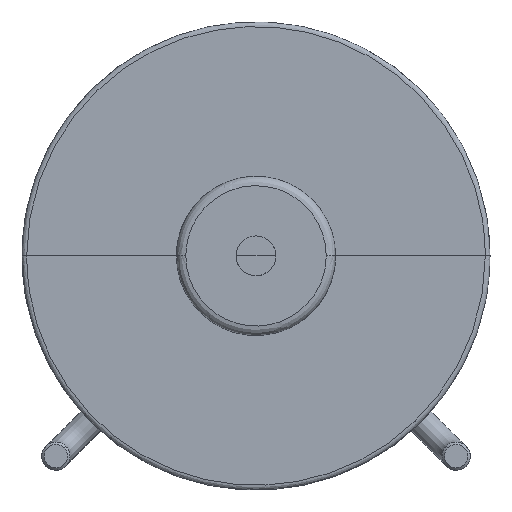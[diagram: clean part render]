
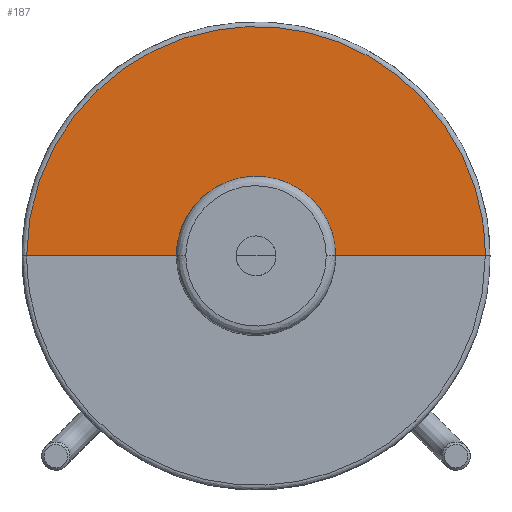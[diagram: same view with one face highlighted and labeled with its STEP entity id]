
A CAD part, top view. The second image highlights one B-rep face of the part: STEP entity #187.
In plain terms, the highlighted free-form (B-spline) face has degree [1, 2] with [2, 5] control points.
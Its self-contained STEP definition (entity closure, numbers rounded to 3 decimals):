
#187=ADVANCED_FACE($,(#347),#1914,.T.);
#347=FACE_OUTER_BOUND($,#517,.T.);
#517=EDGE_LOOP($,(#907,#908,#909,#910));
#907=ORIENTED_EDGE($,*,*,#1446,.F.);
#908=ORIENTED_EDGE($,*,*,#1447,.T.);
#909=ORIENTED_EDGE($,*,*,#1478,.F.);
#910=ORIENTED_EDGE($,*,*,#1476,.F.);
#1446=EDGE_CURVE($,#1728,#1743,#7308,.T.);
#1447=EDGE_CURVE($,#1728,#1735,#2070,.T.);
#1476=EDGE_CURVE($,#1743,#1744,#2084,.T.);
#1478=EDGE_CURVE($,#1744,#1735,#2085,.T.);
#1728=VERTEX_POINT($,#4604);
#1735=VERTEX_POINT($,#4611);
#1743=VERTEX_POINT($,#4619);
#1744=VERTEX_POINT($,#4620);
#1914=(
BOUNDED_SURFACE()
B_SPLINE_SURFACE(1,2,((#4167,#4168,#4169,#4170,#4171),(#4172,#4173,#4174,
#4175,#4176)),.UNSPECIFIED.,.F.,.F.,.F.)
B_SPLINE_SURFACE_WITH_KNOTS((2,2),(3,2,3),(0.,32.5),(0.,1.571,
3.142),.UNSPECIFIED.)
GEOMETRIC_REPRESENTATION_ITEM()
RATIONAL_B_SPLINE_SURFACE(((1.,0.707,1.,0.707,1.),
(1.,0.707,1.,0.707,1.)))
REPRESENTATION_ITEM($)
SURFACE()
);
#2070=B_SPLINE_CURVE_WITH_KNOTS($,1,(#3893,#3894),.UNSPECIFIED.,.F.,.F.,
(2,2),(0.,32.5),.UNSPECIFIED.);
#2084=B_SPLINE_CURVE_WITH_KNOTS($,1,(#4026,#4027),.UNSPECIFIED.,.F.,.F.,
(2,2),(0.,32.5),.UNSPECIFIED.);
#2085=B_SPLINE_CURVE_WITH_KNOTS($,3,(#4033,#4034,#4035,#4036,#4037,#4038,
#4039,#4040,#4041,#4042,#4043),.UNSPECIFIED.,.F.,.F.,(4,1,1,1,1,1,1,1,4),
(51.836,58.316,64.795,71.275,77.754,
84.234,90.713,97.193,103.672),.UNSPECIFIED.);
#3888=CARTESIAN_POINT($,(-138.894,-68.368,32.));
#3889=CARTESIAN_POINT($,(-138.894,-19.368,32.));
#3890=CARTESIAN_POINT($,(-89.894,-19.368,32.));
#3891=CARTESIAN_POINT($,(-40.894,-19.368,32.));
#3892=CARTESIAN_POINT($,(-40.894,-68.368,32.));
#3893=CARTESIAN_POINT($,(-138.894,-68.368,32.));
#3894=CARTESIAN_POINT($,(-106.394,-68.368,32.));
#4026=CARTESIAN_POINT($,(-40.894,-68.368,32.));
#4027=CARTESIAN_POINT($,(-73.394,-68.368,32.));
#4033=CARTESIAN_POINT($,(-73.393,-68.368,32.));
#4034=CARTESIAN_POINT($,(-73.393,-66.208,32.));
#4035=CARTESIAN_POINT($,(-74.252,-61.889,32.));
#4036=CARTESIAN_POINT($,(-77.923,-56.396,32.));
#4037=CARTESIAN_POINT($,(-83.415,-52.726,32.));
#4038=CARTESIAN_POINT($,(-89.894,-51.437,32.));
#4039=CARTESIAN_POINT($,(-96.373,-52.726,32.));
#4040=CARTESIAN_POINT($,(-101.866,-56.396,32.));
#4041=CARTESIAN_POINT($,(-105.535,-61.889,32.));
#4042=CARTESIAN_POINT($,(-106.395,-66.208,32.));
#4043=CARTESIAN_POINT($,(-106.394,-68.368,32.));
#4167=CARTESIAN_POINT($,(-138.894,-68.368,32.));
#4168=CARTESIAN_POINT($,(-138.894,-19.368,32.));
#4169=CARTESIAN_POINT($,(-89.894,-19.368,32.));
#4170=CARTESIAN_POINT($,(-40.894,-19.368,32.));
#4171=CARTESIAN_POINT($,(-40.894,-68.368,32.));
#4172=CARTESIAN_POINT($,(-106.394,-68.368,32.));
#4173=CARTESIAN_POINT($,(-106.394,-51.868,32.));
#4174=CARTESIAN_POINT($,(-89.894,-51.868,32.));
#4175=CARTESIAN_POINT($,(-73.394,-51.868,32.));
#4176=CARTESIAN_POINT($,(-73.394,-68.368,32.));
#4604=CARTESIAN_POINT($,(-138.894,-68.368,32.));
#4611=CARTESIAN_POINT($,(-106.394,-68.368,32.));
#4619=CARTESIAN_POINT($,(-40.894,-68.368,32.));
#4620=CARTESIAN_POINT($,(-73.394,-68.368,32.));
#7308=(
BOUNDED_CURVE()
B_SPLINE_CURVE(2,(#3888,#3889,#3890,#3891,#3892),.UNSPECIFIED.,.F.,.F.)
B_SPLINE_CURVE_WITH_KNOTS((3,2,3),(0.,1.571,3.142),
.UNSPECIFIED.)
CURVE()
GEOMETRIC_REPRESENTATION_ITEM()
RATIONAL_B_SPLINE_CURVE((1.,0.707,1.,0.707,1.))
REPRESENTATION_ITEM($)
);
